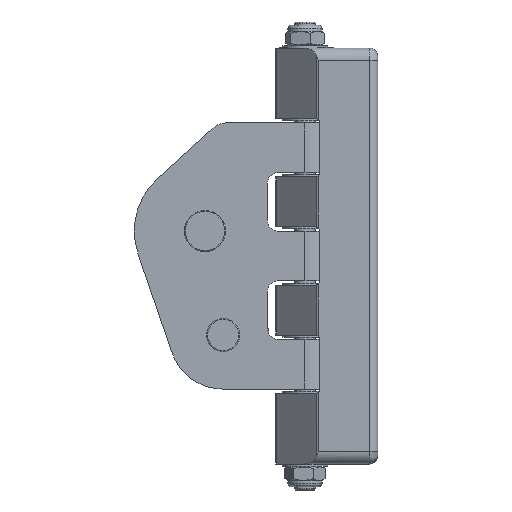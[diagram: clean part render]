
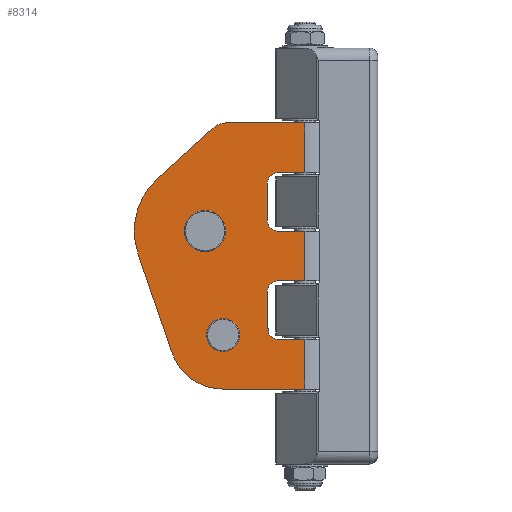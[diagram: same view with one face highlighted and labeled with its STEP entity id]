
A CAD part, left-side view. The second image highlights one B-rep face of the part: STEP entity #8314.
In plain terms, the highlighted planar face has unit normal (-1, 0, 0).
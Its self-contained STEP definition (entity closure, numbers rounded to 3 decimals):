
#363=FACE_BOUND('',#1753,.T.);
#364=FACE_BOUND('',#1754,.T.);
#562=PLANE('',#9305);
#1202=FACE_OUTER_BOUND('',#1752,.T.);
#1752=EDGE_LOOP('',(#7553,#7554,#7555,#7556,#7557,#7558,#7559,#7560,#7561,
#7562,#7563,#7564,#7565,#7566,#7567,#7568,#7569,#7570,#7571,#7572));
#1753=EDGE_LOOP('',(#7573));
#1754=EDGE_LOOP('',(#7574));
#2281=LINE('',#16361,#2831);
#2288=LINE('',#16423,#2838);
#2291=LINE('',#16428,#2841);
#2293=LINE('',#16431,#2843);
#2310=LINE('',#16513,#2860);
#2313=LINE('',#16542,#2863);
#2314=LINE('',#16543,#2864);
#2315=LINE('',#16545,#2865);
#2316=LINE('',#16547,#2866);
#2317=LINE('',#16548,#2867);
#2318=LINE('',#16549,#2868);
#2319=LINE('',#16550,#2869);
#2320=LINE('',#16551,#2870);
#2831=VECTOR('',#11586,10.);
#2838=VECTOR('',#11605,10.);
#2841=VECTOR('',#11612,10.);
#2843=VECTOR('',#11616,10.);
#2860=VECTOR('',#11653,10.);
#2863=VECTOR('',#11690,10.);
#2864=VECTOR('',#11691,10.);
#2865=VECTOR('',#11692,10.);
#2866=VECTOR('',#11693,10.);
#2867=VECTOR('',#11694,10.);
#2868=VECTOR('',#11695,10.);
#2869=VECTOR('',#11696,10.);
#2870=VECTOR('',#11697,10.);
#3309=CIRCLE('',#9205,5.);
#3311=CIRCLE('',#9208,5.);
#3326=CIRCLE('',#9229,5.);
#3328=CIRCLE('',#9232,5.);
#3330=CIRCLE('',#9235,10.);
#3332=CIRCLE('',#9238,34.);
#3334=CIRCLE('',#9241,26.);
#3363=CIRCLE('',#9294,8.1);
#3369=CIRCLE('',#9303,6.2);
#3984=VERTEX_POINT('',#16113);
#3985=VERTEX_POINT('',#16115);
#3988=VERTEX_POINT('',#16122);
#3989=VERTEX_POINT('',#16124);
#4032=VERTEX_POINT('',#16223);
#4033=VERTEX_POINT('',#16225);
#4040=VERTEX_POINT('',#16240);
#4041=VERTEX_POINT('',#16242);
#4044=VERTEX_POINT('',#16249);
#4045=VERTEX_POINT('',#16251);
#4050=VERTEX_POINT('',#16262);
#4051=VERTEX_POINT('',#16264);
#4056=VERTEX_POINT('',#16275);
#4057=VERTEX_POINT('',#16277);
#4084=VERTEX_POINT('',#16359);
#4085=VERTEX_POINT('',#16360);
#4092=VERTEX_POINT('',#16421);
#4108=VERTEX_POINT('',#16521);
#4113=VERTEX_POINT('',#16537);
#4114=VERTEX_POINT('',#16541);
#4115=VERTEX_POINT('',#16544);
#4116=VERTEX_POINT('',#16546);
#5117=EDGE_CURVE('',#3985,#3984,#3309,.T.);
#5121=EDGE_CURVE('',#3989,#3988,#3311,.T.);
#5169=EDGE_CURVE('',#4033,#4032,#3326,.T.);
#5177=EDGE_CURVE('',#4041,#4040,#3328,.T.);
#5181=EDGE_CURVE('',#4045,#4044,#3330,.T.);
#5187=EDGE_CURVE('',#4051,#4050,#3332,.T.);
#5193=EDGE_CURVE('',#4057,#4056,#3334,.T.);
#5237=EDGE_CURVE('',#4084,#4085,#2281,.T.);
#5249=EDGE_CURVE('',#4092,#4056,#2288,.T.);
#5252=EDGE_CURVE('',#4050,#4057,#2291,.T.);
#5254=EDGE_CURVE('',#4044,#4051,#2293,.T.);
#5277=EDGE_CURVE('',#4085,#4045,#2310,.T.);
#5281=EDGE_CURVE('',#4108,#4108,#3363,.T.);
#5289=EDGE_CURVE('',#4113,#4113,#3369,.T.);
#5291=EDGE_CURVE('',#4114,#4033,#2313,.T.);
#5292=EDGE_CURVE('',#4032,#4041,#2314,.T.);
#5293=EDGE_CURVE('',#4040,#4115,#2315,.T.);
#5294=EDGE_CURVE('',#4115,#4116,#2316,.T.);
#5295=EDGE_CURVE('',#3989,#4116,#2317,.T.);
#5296=EDGE_CURVE('',#3985,#3988,#2318,.T.);
#5297=EDGE_CURVE('',#4084,#3984,#2319,.T.);
#5298=EDGE_CURVE('',#4092,#4114,#2320,.T.);
#7553=ORIENTED_EDGE('',*,*,#5291,.T.);
#7554=ORIENTED_EDGE('',*,*,#5169,.T.);
#7555=ORIENTED_EDGE('',*,*,#5292,.T.);
#7556=ORIENTED_EDGE('',*,*,#5177,.T.);
#7557=ORIENTED_EDGE('',*,*,#5293,.T.);
#7558=ORIENTED_EDGE('',*,*,#5294,.T.);
#7559=ORIENTED_EDGE('',*,*,#5295,.F.);
#7560=ORIENTED_EDGE('',*,*,#5121,.T.);
#7561=ORIENTED_EDGE('',*,*,#5296,.F.);
#7562=ORIENTED_EDGE('',*,*,#5117,.T.);
#7563=ORIENTED_EDGE('',*,*,#5297,.F.);
#7564=ORIENTED_EDGE('',*,*,#5237,.T.);
#7565=ORIENTED_EDGE('',*,*,#5277,.T.);
#7566=ORIENTED_EDGE('',*,*,#5181,.T.);
#7567=ORIENTED_EDGE('',*,*,#5254,.T.);
#7568=ORIENTED_EDGE('',*,*,#5187,.T.);
#7569=ORIENTED_EDGE('',*,*,#5252,.T.);
#7570=ORIENTED_EDGE('',*,*,#5193,.T.);
#7571=ORIENTED_EDGE('',*,*,#5249,.F.);
#7572=ORIENTED_EDGE('',*,*,#5298,.T.);
#7573=ORIENTED_EDGE('',*,*,#5281,.T.);
#7574=ORIENTED_EDGE('',*,*,#5289,.F.);
#8314=ADVANCED_FACE('',(#1202,#363,#364),#562,.T.);
#9205=AXIS2_PLACEMENT_3D('',#16116,#11380,#11381);
#9208=AXIS2_PLACEMENT_3D('',#16125,#11388,#11389);
#9229=AXIS2_PLACEMENT_3D('',#16226,#11462,#11463);
#9232=AXIS2_PLACEMENT_3D('',#16243,#11474,#11475);
#9235=AXIS2_PLACEMENT_3D('',#16252,#11482,#11483);
#9238=AXIS2_PLACEMENT_3D('',#16265,#11492,#11493);
#9241=AXIS2_PLACEMENT_3D('',#16278,#11502,#11503);
#9294=AXIS2_PLACEMENT_3D('',#16522,#11664,#11665);
#9303=AXIS2_PLACEMENT_3D('',#16538,#11684,#11685);
#9305=AXIS2_PLACEMENT_3D('',#16540,#11688,#11689);
#11380=DIRECTION('center_axis',(1.,0.,0.));
#11381=DIRECTION('ref_axis',(0.,-1.,0.));
#11388=DIRECTION('center_axis',(1.,0.,0.));
#11389=DIRECTION('ref_axis',(0.,0.,1.));
#11462=DIRECTION('center_axis',(1.,0.,0.));
#11463=DIRECTION('ref_axis',(0.,0.,
-1.));
#11474=DIRECTION('center_axis',(1.,0.,0.));
#11475=DIRECTION('ref_axis',(0.,1.,0.));
#11482=DIRECTION('center_axis',(-1.,0.,0.));
#11483=DIRECTION('ref_axis',(0.,-0.673,-0.74));
#11492=DIRECTION('center_axis',(-1.,0.,0.));
#11493=DIRECTION('ref_axis',(0.,-0.946,0.325));
#11502=DIRECTION('center_axis',(-1.,0.,0.));
#11503=DIRECTION('ref_axis',(0.,0.,
1.));
#11586=DIRECTION('',(0.,0.,1.));
#11605=DIRECTION('',(0.,1.,0.));
#11612=DIRECTION('',(0.,-0.325,-0.946));
#11616=DIRECTION('',(0.,0.74,-0.673));
#11653=DIRECTION('',(0.,1.,0.));
#11664=DIRECTION('center_axis',(1.,0.,0.));
#11665=DIRECTION('ref_axis',(0.,0.,
-1.));
#11684=DIRECTION('center_axis',(-1.,0.,0.));
#11685=DIRECTION('ref_axis',(0.,0.,
-1.));
#11688=DIRECTION('center_axis',(-1.,0.,0.));
#11689=DIRECTION('ref_axis',(0.,1.,0.));
#11690=DIRECTION('',(0.,1.,0.));
#11691=DIRECTION('',(0.,0.,1.));
#11692=DIRECTION('',(0.,-1.,0.));
#11693=DIRECTION('',(0.,0.,1.));
#11694=DIRECTION('',(0.,-1.,0.));
#11695=DIRECTION('',(0.,0.,-1.));
#11696=DIRECTION('',(0.,1.,0.));
#11697=DIRECTION('',(0.,0.,1.));
#16113=CARTESIAN_POINT('',(-15.,35.564,40.));
#16115=CARTESIAN_POINT('',(-15.,40.564,35.));
#16116=CARTESIAN_POINT('Origin',(-15.,35.564,35.));
#16122=CARTESIAN_POINT('',(-15.,40.564,17.));
#16124=CARTESIAN_POINT('',(-15.,35.564,12.));
#16125=CARTESIAN_POINT('Origin',(-15.,35.564,17.));
#16223=CARTESIAN_POINT('',(-15.,40.564,-35.));
#16225=CARTESIAN_POINT('',(-15.,35.564,-40.));
#16226=CARTESIAN_POINT('Origin',(-15.,35.564,-35.));
#16240=CARTESIAN_POINT('',(-15.,35.564,-12.));
#16242=CARTESIAN_POINT('',(-15.,40.564,-17.));
#16243=CARTESIAN_POINT('Origin',(-15.,35.564,-17.));
#16249=CARTESIAN_POINT('',(-15.,66.794,61.397));
#16251=CARTESIAN_POINT('',(-15.,60.064,64.));
#16252=CARTESIAN_POINT('Origin',(-15.,60.064,54.));
#16262=CARTESIAN_POINT('',(-15.,102.713,0.934));
#16264=CARTESIAN_POINT('',(-15.,93.445,37.149));
#16265=CARTESIAN_POINT('Origin',(-15.,70.564,12.));
#16275=CARTESIAN_POINT('',(-15.,61.814,-64.));
#16277=CARTESIAN_POINT('',(-15.,86.399,-46.462));
#16278=CARTESIAN_POINT('Origin',(-15.,61.814,-38.));
#16359=CARTESIAN_POINT('',(-15.,22.5,40.));
#16360=CARTESIAN_POINT('',(-15.,22.5,64.));
#16361=CARTESIAN_POINT('',(-15.,22.5,-31.871));
#16421=CARTESIAN_POINT('',(-15.,22.5,-64.));
#16423=CARTESIAN_POINT('',(-15.,13.782,-64.));
#16428=CARTESIAN_POINT('',(-15.,89.28,-38.092));
#16431=CARTESIAN_POINT('',(-15.,78.449,50.792));
#16513=CARTESIAN_POINT('',(-15.,32.564,64.));
#16521=CARTESIAN_POINT('',(-15.,70.564,20.1));
#16522=CARTESIAN_POINT('Origin',(-15.,70.564,12.));
#16537=CARTESIAN_POINT('',(-15.,68.014,-38.));
#16538=CARTESIAN_POINT('Origin',(-15.,61.814,-38.));
#16540=CARTESIAN_POINT('Origin',(-15.,5.064,0.259));
#16541=CARTESIAN_POINT('',(-15.,22.5,-40.));
#16542=CARTESIAN_POINT('',(-15.,-10.186,-40.));
#16543=CARTESIAN_POINT('',(-15.,40.564,-17.371));
#16544=CARTESIAN_POINT('',(-15.,22.5,-12.));
#16545=CARTESIAN_POINT('',(-15.,20.314,-12.));
#16546=CARTESIAN_POINT('',(-15.,22.5,12.));
#16547=CARTESIAN_POINT('',(-15.,22.5,-31.871));
#16548=CARTESIAN_POINT('',(-15.,20.314,12.));
#16549=CARTESIAN_POINT('',(-15.,40.564,17.629));
#16550=CARTESIAN_POINT('',(-15.,-10.186,40.));
#16551=CARTESIAN_POINT('',(-15.,22.5,-31.871));
